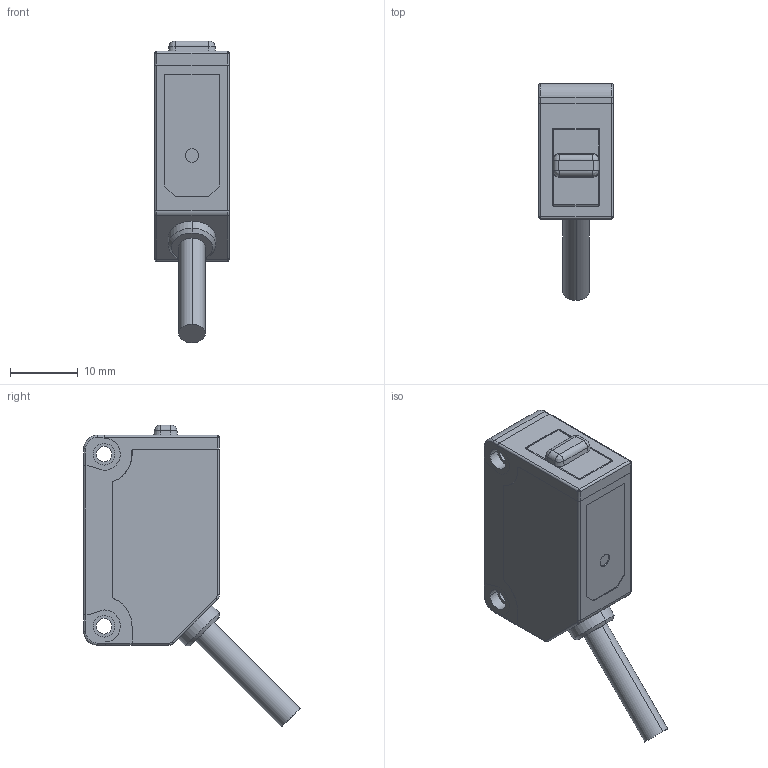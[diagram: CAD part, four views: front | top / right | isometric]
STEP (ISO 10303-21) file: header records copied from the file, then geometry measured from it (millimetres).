
FILE_DESCRIPTION (( 'STEP AP203' ), '1' );
FILE_NAME ('pf31V--T-F.STEP', '2023-03-27T08:40:27', ( 'Windows User' ), ( 'P R C' ), 'SwSTEP 2.0', 'SolidWorks 2016', '' );
FILE_SCHEMA (( 'CONFIG_CONTROL_DESIGN' ));
Length unit declared in the file: inch
Products named in the file (10): pf31V--T-F; PF31-005_J_1; PF31-001_J_1; PF31-006_J_1; BIAOJIAO_J_1; PCB01_J_1; GUANGLAN_1; PF31X-DENGZBHAO-F_F_1; PF31-PCB-F_FOLD_1; PF31-DUISHE_J_1
Assembly tree (9 placements, depth 2):
  pf31V--T-F
    PF31-DUISHE_J_1
    PF31-005_J_1
    PF31-001_J_1
    PF31-006_J_1
    BIAOJIAO_J_1
    PCB01_J_1
    GUANGLAN_1
    PF31X-DENGZBHAO-F_F_1
    PF31-PCB-F_FOLD_1
Bounding box: 11 x 31.97 x 44.57 mm (x, y, z)
Volume: 4689.9 mm3; surface area: 9954.9 mm2
Topology: 15 solids, 20 shells, 1423 faces, 3783 edges, 2464 vertices
Faces by surface type: plane 1063, cylinder 275, cone 28, sphere 26, bspline 17, torus 14
Entity records: 45844 total; most frequent: CARTESIAN_POINT 9340, ORIENTED_EDGE 7540, DIRECTION 6985, EDGE_CURVE 3779, VECTOR 3025, LINE 3025, VERTEX_POINT 2464, AXIS2_PLACEMENT_3D 1980
